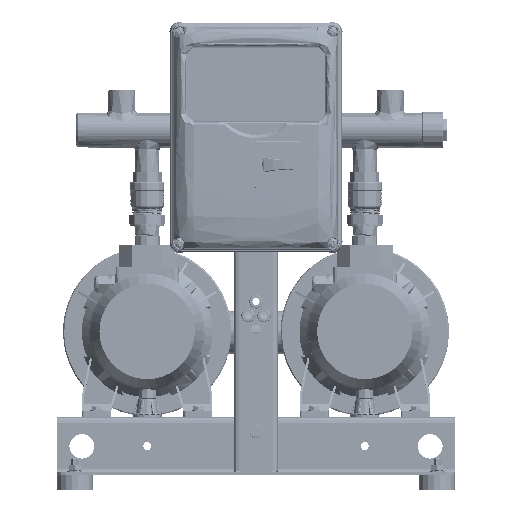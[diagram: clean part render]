
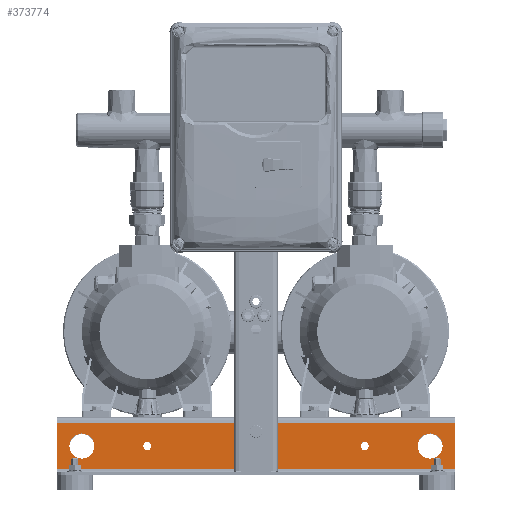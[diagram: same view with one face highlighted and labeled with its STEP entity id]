
A CAD part, top view. The second image highlights one B-rep face of the part: STEP entity #373774.
In plain terms, the highlighted planar face has unit normal (0, 0, 1) as drawn and (0, 0, -1) by its records, which use the part's own axes.
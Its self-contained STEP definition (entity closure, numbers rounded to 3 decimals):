
#367505=DIRECTION('',(1.,0.,0.));
#367506=VECTOR('',#367505,550.);
#367507=CARTESIAN_POINT('',(-275.,-8.,-150.));
#367508=LINE('',#367507,#367506);
#369735=DIRECTION('',(0.,1.,0.));
#369736=VECTOR('',#369735,64.);
#369737=CARTESIAN_POINT('',(-275.,-72.,-150.));
#369738=LINE('',#369737,#369736);
#369756=DIRECTION('',(1.,0.,0.));
#369757=VECTOR('',#369756,550.);
#369758=CARTESIAN_POINT('',(-275.,-72.,-150.));
#369759=LINE('',#369758,#369757);
#369786=DIRECTION('',(0.,1.,0.));
#369787=VECTOR('',#369786,26.);
#369788=CARTESIAN_POINT('',(-26.7,-40.,-150.));
#369789=LINE('',#369788,#369787);
#369793=DIRECTION('',(1.,0.,0.));
#369794=VECTOR('',#369793,3.6);
#369795=CARTESIAN_POINT('',(-30.3,-40.,-150.));
#369796=LINE('',#369795,#369794);
#369800=DIRECTION('',(0.,-1.,0.));
#369801=VECTOR('',#369800,26.);
#369802=CARTESIAN_POINT('',(-30.3,-14.,-150.));
#369803=LINE('',#369802,#369801);
#369807=DIRECTION('',(-1.,0.,0.));
#369808=VECTOR('',#369807,3.6);
#369809=CARTESIAN_POINT('',(-26.7,-14.,-150.));
#369810=LINE('',#369809,#369808);
#369814=DIRECTION('',(0.,1.,0.));
#369815=VECTOR('',#369814,26.);
#369816=CARTESIAN_POINT('',(30.3,-40.,-150.));
#369817=LINE('',#369816,#369815);
#369821=DIRECTION('',(1.,0.,0.));
#369822=VECTOR('',#369821,3.6);
#369823=CARTESIAN_POINT('',(26.7,-40.,-150.));
#369824=LINE('',#369823,#369822);
#369828=DIRECTION('',(0.,-1.,0.));
#369829=VECTOR('',#369828,26.);
#369830=CARTESIAN_POINT('',(26.7,-14.,-150.));
#369831=LINE('',#369830,#369829);
#369835=DIRECTION('',(-1.,0.,0.));
#369836=VECTOR('',#369835,3.6);
#369837=CARTESIAN_POINT('',(30.3,-14.,-150.));
#369838=LINE('',#369837,#369836);
#369842=CARTESIAN_POINT('',(0.,-20.,-150.));
#369843=DIRECTION('',(0.,0.,-1.));
#369844=DIRECTION('',(1.,0.,0.));
#369845=AXIS2_PLACEMENT_3D('',#369842,#369843,#369844);
#369850=CARTESIAN_POINT('',(0.,-20.,-150.));
#369851=DIRECTION('',(0.,0.,-1.));
#369852=DIRECTION('',(-1.,0.,0.));
#369853=AXIS2_PLACEMENT_3D('',#369850,#369851,#369852);
#369858=CARTESIAN_POINT('',(-240.,-40.,-150.));
#369859=DIRECTION('',(0.,0.,1.));
#369860=DIRECTION('',(-1.,0.,0.));
#369861=AXIS2_PLACEMENT_3D('',#369858,#369859,#369860);
#369866=CARTESIAN_POINT('',(-240.,-40.,-150.));
#369867=DIRECTION('',(0.,0.,1.));
#369868=DIRECTION('',(1.,0.,0.));
#369869=AXIS2_PLACEMENT_3D('',#369866,#369867,#369868);
#369874=CARTESIAN_POINT('',(240.,-40.,-150.));
#369875=DIRECTION('',(0.,0.,1.));
#369876=DIRECTION('',(-1.,0.,0.));
#369877=AXIS2_PLACEMENT_3D('',#369874,#369875,#369876);
#369882=CARTESIAN_POINT('',(240.,-40.,-150.));
#369883=DIRECTION('',(0.,0.,1.));
#369884=DIRECTION('',(1.,0.,0.));
#369885=AXIS2_PLACEMENT_3D('',#369882,#369883,#369884);
#369890=CARTESIAN_POINT('',(-150.,-40.,-150.));
#369891=DIRECTION('',(0.,0.,1.));
#369892=DIRECTION('',(1.,0.,0.));
#369893=AXIS2_PLACEMENT_3D('',#369890,#369891,#369892);
#369898=CARTESIAN_POINT('',(-150.,-40.,-150.));
#369899=DIRECTION('',(0.,0.,1.));
#369900=DIRECTION('',(-1.,0.,0.));
#369901=AXIS2_PLACEMENT_3D('',#369898,#369899,#369900);
#369906=CARTESIAN_POINT('',(150.,-40.,-150.));
#369907=DIRECTION('',(0.,0.,-1.));
#369908=DIRECTION('',(-1.,0.,0.));
#369909=AXIS2_PLACEMENT_3D('',#369906,#369907,#369908);
#369914=CARTESIAN_POINT('',(150.,-40.,-150.));
#369915=DIRECTION('',(0.,0.,-1.));
#369916=DIRECTION('',(1.,0.,0.));
#369917=AXIS2_PLACEMENT_3D('',#369914,#369915,#369916);
#369936=DIRECTION('',(0.,1.,0.));
#369937=VECTOR('',#369936,64.);
#369938=CARTESIAN_POINT('',(275.,-72.,-150.));
#369939=LINE('',#369938,#369937);
#371501=CARTESIAN_POINT('',(-275.,-72.,-150.));
#371502=CARTESIAN_POINT('',(-275.,-8.,-150.));
#371503=VERTEX_POINT('',#371501);
#371504=VERTEX_POINT('',#371502);
#371505=CARTESIAN_POINT('',(275.,-72.,-150.));
#371506=CARTESIAN_POINT('',(275.,-8.,-150.));
#371507=VERTEX_POINT('',#371505);
#371508=VERTEX_POINT('',#371506);
#371861=CARTESIAN_POINT('',(-26.7,-40.,-150.));
#371862=CARTESIAN_POINT('',(-26.7,-14.,-150.));
#371863=VERTEX_POINT('',#371861);
#371864=VERTEX_POINT('',#371862);
#371865=CARTESIAN_POINT('',(-30.3,-14.,-150.));
#371866=VERTEX_POINT('',#371865);
#371867=CARTESIAN_POINT('',(-30.3,-40.,-150.));
#371868=VERTEX_POINT('',#371867);
#371869=CARTESIAN_POINT('',(30.3,-40.,-150.));
#371870=CARTESIAN_POINT('',(30.3,-14.,-150.));
#371871=VERTEX_POINT('',#371869);
#371872=VERTEX_POINT('',#371870);
#371873=CARTESIAN_POINT('',(26.7,-14.,-150.));
#371874=VERTEX_POINT('',#371873);
#371875=CARTESIAN_POINT('',(26.7,-40.,-150.));
#371876=VERTEX_POINT('',#371875);
#371893=CARTESIAN_POINT('',(6.25,-20.,-150.));
#371894=CARTESIAN_POINT('',(-6.25,-20.,-150.));
#371895=VERTEX_POINT('',#371893);
#371896=VERTEX_POINT('',#371894);
#371917=CARTESIAN_POINT('',(-257.5,-40.,-150.));
#371918=CARTESIAN_POINT('',(-222.5,-40.,-150.));
#371919=VERTEX_POINT('',#371917);
#371920=VERTEX_POINT('',#371918);
#371921=CARTESIAN_POINT('',(222.5,-40.,-150.));
#371922=CARTESIAN_POINT('',(257.5,-40.,-150.));
#371923=VERTEX_POINT('',#371921);
#371924=VERTEX_POINT('',#371922);
#372017=CARTESIAN_POINT('',(-143.75,-40.,-150.));
#372018=CARTESIAN_POINT('',(-156.25,-40.,-150.));
#372019=VERTEX_POINT('',#372017);
#372020=VERTEX_POINT('',#372018);
#372029=CARTESIAN_POINT('',(143.75,-40.,-150.));
#372031=VERTEX_POINT('',#372029);
#372037=CARTESIAN_POINT('',(156.25,-40.,-150.));
#372039=VERTEX_POINT('',#372037);
#373712=CARTESIAN_POINT('',(-275.,-76.,-150.));
#373713=DIRECTION('',(0.,0.,-1.));
#373714=DIRECTION('',(0.,1.,0.));
#373715=AXIS2_PLACEMENT_3D('',#373712,#373713,#373714);
#373716=PLANE('',#373715);
#373717=ORIENTED_EDGE('',*,*,#373665,.F.);
#373718=ORIENTED_EDGE('',*,*,#373702,.T.);
#373720=ORIENTED_EDGE('',*,*,#373719,.T.);
#373721=ORIENTED_EDGE('',*,*,#372773,.F.);
#373722=EDGE_LOOP('',(#373717,#373718,#373720,#373721));
#373723=FACE_OUTER_BOUND('',#373722,.F.);
#373725=ORIENTED_EDGE('',*,*,#373724,.F.);
#373727=ORIENTED_EDGE('',*,*,#373726,.F.);
#373729=ORIENTED_EDGE('',*,*,#373728,.F.);
#373731=ORIENTED_EDGE('',*,*,#373730,.F.);
#373732=EDGE_LOOP('',(#373725,#373727,#373729,#373731));
#373733=FACE_BOUND('',#373732,.F.);
#373735=ORIENTED_EDGE('',*,*,#373734,.F.);
#373737=ORIENTED_EDGE('',*,*,#373736,.F.);
#373739=ORIENTED_EDGE('',*,*,#373738,.F.);
#373741=ORIENTED_EDGE('',*,*,#373740,.F.);
#373742=EDGE_LOOP('',(#373735,#373737,#373739,#373741));
#373743=FACE_BOUND('',#373742,.F.);
#373745=ORIENTED_EDGE('',*,*,#373744,.T.);
#373747=ORIENTED_EDGE('',*,*,#373746,.T.);
#373748=EDGE_LOOP('',(#373745,#373747));
#373749=FACE_BOUND('',#373748,.F.);
#373751=ORIENTED_EDGE('',*,*,#373750,.F.);
#373753=ORIENTED_EDGE('',*,*,#373752,.F.);
#373754=EDGE_LOOP('',(#373751,#373753));
#373755=FACE_BOUND('',#373754,.F.);
#373757=ORIENTED_EDGE('',*,*,#373756,.F.);
#373759=ORIENTED_EDGE('',*,*,#373758,.F.);
#373760=EDGE_LOOP('',(#373757,#373759));
#373761=FACE_BOUND('',#373760,.F.);
#373763=ORIENTED_EDGE('',*,*,#373762,.F.);
#373765=ORIENTED_EDGE('',*,*,#373764,.F.);
#373766=EDGE_LOOP('',(#373763,#373765));
#373767=FACE_BOUND('',#373766,.F.);
#373769=ORIENTED_EDGE('',*,*,#373768,.T.);
#373771=ORIENTED_EDGE('',*,*,#373770,.T.);
#373772=EDGE_LOOP('',(#373769,#373771));
#373773=FACE_BOUND('',#373772,.F.);
#369846=CIRCLE('',#369845,6.25);
#369854=CIRCLE('',#369853,6.25);
#369862=CIRCLE('',#369861,17.5);
#369870=CIRCLE('',#369869,17.5);
#369878=CIRCLE('',#369877,17.5);
#369886=CIRCLE('',#369885,17.5);
#369894=CIRCLE('',#369893,6.25);
#369902=CIRCLE('',#369901,6.25);
#369910=CIRCLE('',#369909,6.25);
#369918=CIRCLE('',#369917,6.25);
#372773=EDGE_CURVE('',#371504,#371508,#367508,.T.);
#373665=EDGE_CURVE('',#371503,#371504,#369738,.T.);
#373702=EDGE_CURVE('',#371503,#371507,#369759,.T.);
#373719=EDGE_CURVE('',#371507,#371508,#369939,.T.);
#373724=EDGE_CURVE('',#371863,#371864,#369789,.T.);
#373726=EDGE_CURVE('',#371868,#371863,#369796,.T.);
#373728=EDGE_CURVE('',#371866,#371868,#369803,.T.);
#373730=EDGE_CURVE('',#371864,#371866,#369810,.T.);
#373734=EDGE_CURVE('',#371871,#371872,#369817,.T.);
#373736=EDGE_CURVE('',#371876,#371871,#369824,.T.);
#373738=EDGE_CURVE('',#371874,#371876,#369831,.T.);
#373740=EDGE_CURVE('',#371872,#371874,#369838,.T.);
#373744=EDGE_CURVE('',#371895,#371896,#369846,.T.);
#373746=EDGE_CURVE('',#371896,#371895,#369854,.T.);
#373750=EDGE_CURVE('',#371919,#371920,#369862,.T.);
#373752=EDGE_CURVE('',#371920,#371919,#369870,.T.);
#373756=EDGE_CURVE('',#371923,#371924,#369878,.T.);
#373758=EDGE_CURVE('',#371924,#371923,#369886,.T.);
#373762=EDGE_CURVE('',#372019,#372020,#369894,.T.);
#373764=EDGE_CURVE('',#372020,#372019,#369902,.T.);
#373768=EDGE_CURVE('',#372031,#372039,#369910,.T.);
#373770=EDGE_CURVE('',#372039,#372031,#369918,.T.);
#373774=ADVANCED_FACE('',(#373723,#373733,#373743,#373749,#373755,#373761,
#373767,#373773),#373716,.T.);
